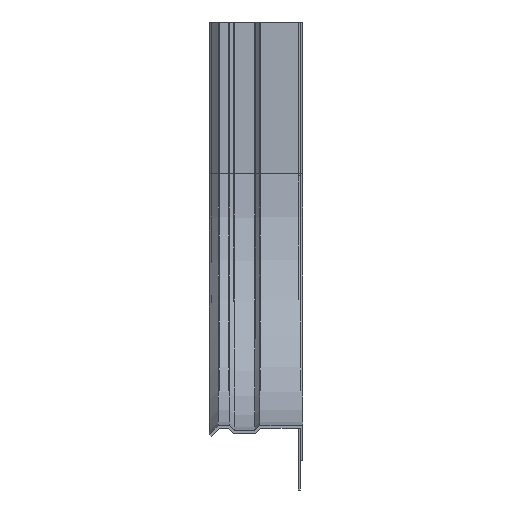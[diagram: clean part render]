
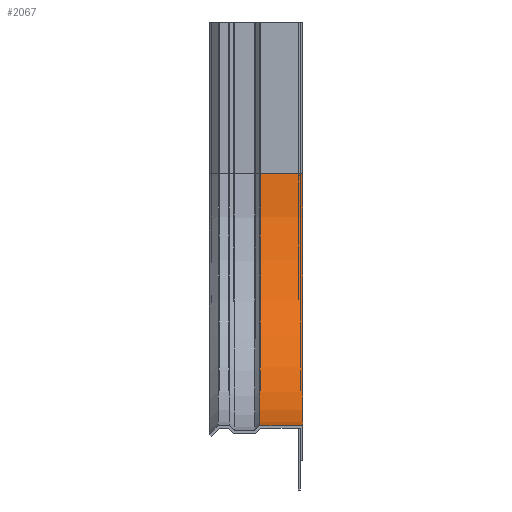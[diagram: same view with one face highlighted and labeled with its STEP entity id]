
A CAD part, left-side view. The second image highlights one B-rep face of the part: STEP entity #2067.
In plain terms, the highlighted cylindrical face has radius 100 mm (diameter 200 mm), a partial arc.
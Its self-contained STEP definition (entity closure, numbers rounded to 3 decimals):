
#96 = AXIS2_PLACEMENT_3D ( 'NONE', #3125, #968, #3097 ) ;
#115 = ORIENTED_EDGE ( 'NONE', *, *, #808, .F. ) ;
#161 = EDGE_CURVE ( 'NONE', #2008, #1204, #1157, .T. ) ;
#169 = CARTESIAN_POINT ( 'NONE',  ( -160., 0., 60. ) ) ;
#318 = AXIS2_PLACEMENT_3D ( 'NONE', #2116, #786, #1263 ) ;
#327 = DIRECTION ( 'NONE',  ( 0., 1., 0. ) ) ;
#726 = CYLINDRICAL_SURFACE ( 'NONE', #96, 100. ) ;
#786 = DIRECTION ( 'NONE',  ( 0., -1., 0. ) ) ;
#808 = EDGE_CURVE ( 'NONE', #3281, #1345, #2261, .T. ) ;
#809 = ORIENTED_EDGE ( 'NONE', *, *, #1503, .F. ) ;
#857 = CARTESIAN_POINT ( 'NONE',  ( -160., 0., 60. ) ) ;
#938 = CARTESIAN_POINT ( 'NONE',  ( -60., 0., 160. ) ) ;
#968 = DIRECTION ( 'NONE',  ( 0., -1., 0. ) ) ;
#1008 = EDGE_LOOP ( 'NONE', ( #115, #2475, #1840, #809 ) ) ;
#1157 = LINE ( 'NONE', #857, #1468 ) ;
#1204 = VERTEX_POINT ( 'NONE', #3006 ) ;
#1263 = DIRECTION ( 'NONE',  ( 0., 0., -1. ) ) ;
#1345 = VERTEX_POINT ( 'NONE', #3335 ) ;
#1468 = VECTOR ( 'NONE', #327, 1000. ) ;
#1481 = CIRCLE ( 'NONE', #318, 100. ) ;
#1503 = EDGE_CURVE ( 'NONE', #1345, #1204, #1481, .T. ) ;
#1584 = VECTOR ( 'NONE', #2014, 1000. ) ;
#1679 = CARTESIAN_POINT ( 'NONE',  ( -60., 0., 60. ) ) ;
#1840 = ORIENTED_EDGE ( 'NONE', *, *, #161, .T. ) ;
#1865 = DIRECTION ( 'NONE',  ( 0., -1., 0. ) ) ;
#2008 = VERTEX_POINT ( 'NONE', #169 ) ;
#2014 = DIRECTION ( 'NONE',  ( 0., 1., 0. ) ) ;
#2065 = FACE_OUTER_BOUND ( 'NONE', #1008, .T. ) ;
#2067 = ADVANCED_FACE ( 'NONE', ( #2065 ), #726, .F. ) ;
#2116 = CARTESIAN_POINT ( 'NONE',  ( -60., 17., 60. ) ) ;
#2261 = LINE ( 'NONE', #938, #1584 ) ;
#2370 = AXIS2_PLACEMENT_3D ( 'NONE', #1679, #1865, #2733 ) ;
#2475 = ORIENTED_EDGE ( 'NONE', *, *, #3108, .T. ) ;
#2733 = DIRECTION ( 'NONE',  ( 0., 0., -1. ) ) ;
#3006 = CARTESIAN_POINT ( 'NONE',  ( -160., 17., 60. ) ) ;
#3097 = DIRECTION ( 'NONE',  ( 0., 0., -1. ) ) ;
#3108 = EDGE_CURVE ( 'NONE', #3281, #2008, #3262, .T. ) ;
#3125 = CARTESIAN_POINT ( 'NONE',  ( -60., 0., 60. ) ) ;
#3262 = CIRCLE ( 'NONE', #2370, 100. ) ;
#3281 = VERTEX_POINT ( 'NONE', #3292 ) ;
#3292 = CARTESIAN_POINT ( 'NONE',  ( -60., 0., 160. ) ) ;
#3335 = CARTESIAN_POINT ( 'NONE',  ( -60., 17., 160. ) ) ;
